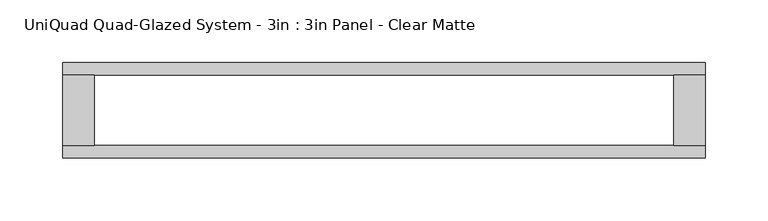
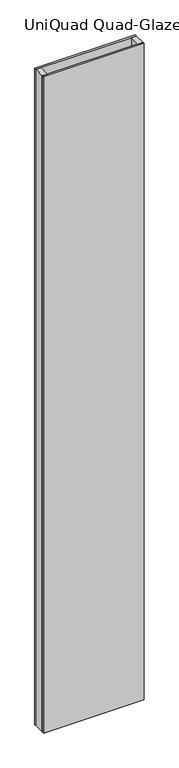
"""IFC4 building model written with IfcOpenShell, lengths in millimetres: plate geometry, UniQuad Quad-Glazed System - 3in : 3in Panel - Clear Matte."""

import ifcopenshell
import ifcopenshell.guid

model = None  # the IFC model being written
_history = None  # IfcOwnerHistory: only IFC2X3 demands one
_inside = {}  # id of a spatial element -> (the spatial element, [elements in it])
_under = {}  # id of a project, library or spatial element -> (it, [spatial elements below it])
_declared = {}  # id of a project -> (the project, [libraries it declares])
_typed = {}  # id of a type object -> (the type object, [elements of that type])
_made_of = {}  # id of a material, layer set ... -> (it, [elements and type objects made of it])


def new_model(schema):
    """Start an empty IFC model of exactly this schema.

    Asked for "IFC4X3", IfcOpenShell would pick the latest addendum, in which some entities
    have other attributes; the version numbers below select the first issue.
    IFC2X3 requires an IfcOwnerHistory on every rooted entity: one is made here for all.
    """
    global model, _history
    if schema == "IFC4X3":
        model = ifcopenshell.file(schema_version=(4, 3, 0, 0))
    else:
        model = ifcopenshell.file(schema=schema)
    _inside.clear()
    _under.clear()
    _declared.clear()
    _typed.clear()
    _made_of.clear()
    _history = None
    if model.schema == "IFC2X3":
        org = make("IfcOrganization", Name="unknown")
        user = make(
            "IfcPersonAndOrganization",
            ThePerson=make("IfcPerson", FamilyName="unknown"),
            TheOrganization=org,
        )
        app = make(
            "IfcApplication",
            ApplicationDeveloper=org,
            Version="unknown",
            ApplicationFullName="unknown",
            ApplicationIdentifier="unknown",
        )
        _history = make(
            "IfcOwnerHistory",
            OwningUser=user,
            OwningApplication=app,
            ChangeAction="ADDED",
            CreationDate=0,
        )
    return model


def make(cls, **values):
    """One entity of the class cls with the attributes given. An attribute that is None is left unset."""
    return model.create_entity(
        cls, **{name: value for name, value in values.items() if value is not None}
    )


def rooted(cls, **values):
    """An entity with a GlobalId (a new one), such as an element, a storey or a relation."""
    return make(cls, GlobalId=ifcopenshell.guid.new(), OwnerHistory=_history, **values)


def si_unit(unit_type, name, prefix=None):
    """IfcSIUnit, for example si_unit("LENGTHUNIT", "METRE", prefix="MILLI")."""
    return make("IfcSIUnit", UnitType=unit_type, Prefix=prefix, Name=name)


def assignment(units):
    """IfcUnitAssignment: the units of a project."""
    return None if units is None else make("IfcUnitAssignment", Units=units)


def point(xyz):
    """IfcCartesianPoint."""
    return None if xyz is None else make("IfcCartesianPoint", Coordinates=xyz)


def direction(xyz):
    """IfcDirection."""
    return None if xyz is None else make("IfcDirection", DirectionRatios=xyz)


def frame(location, z_axis=None, x_axis=None):
    """IfcAxis2Placement3D, a coordinate frame: its origin and axes. An axis left out is left unset."""
    return make(
        "IfcAxis2Placement3D",
        Location=point(location),
        Axis=direction(z_axis),
        RefDirection=direction(x_axis),
    )


def origin():
    """The frame at (0, 0, 0) with its axes left unset."""
    return frame((0.0, 0.0, 0.0))


def origin_with_axes():
    """The frame at (0, 0, 0) with the z axis (0, 0, 1) and the x axis (1, 0, 0) written out."""
    return frame((0.0, 0.0, 0.0), z_axis=(0.0, 0.0, 1.0), x_axis=(1.0, 0.0, 0.0))


def place(relative_to, where):
    """IfcLocalPlacement: puts the frame where relative to a parent placement (None: the world)."""
    return make(
        "IfcLocalPlacement", PlacementRelTo=relative_to, RelativePlacement=where
    )


def context(
    kind, dimensions, precision=None, world=None, true_north=None, identifier=None
):
    """IfcGeometricRepresentationContext, for example the 3D "Model" context."""
    return make(
        "IfcGeometricRepresentationContext",
        ContextIdentifier=identifier,
        ContextType=kind,
        CoordinateSpaceDimension=dimensions,
        Precision=precision,
        WorldCoordinateSystem=world,
        TrueNorth=true_north,
    )


def project(units=None, contexts=None):
    """IfcProject with its units and contexts."""
    return rooted(
        "IfcProject",
        Name="project",
        RepresentationContexts=contexts,
        UnitsInContext=assignment(units),
    )


def spatial(cls, under=None, at=None, **own):
    """A site, building, storey or space (cls), placed at a placement, below another one or the project."""
    s = rooted(cls, ObjectPlacement=at, **own)
    if under is not None:
        _under.setdefault(under.id(), (under, []))[1].append(s)
    return s


def polyline(points):
    """IfcPolyline through the points."""
    return make("IfcPolyline", Points=[point(p) for p in points])


def outline(outer, holes=None, kind="AREA"):
    """IfcArbitraryClosedProfileDef: a profile drawn as a closed curve; with holes, ...WithVoids."""
    if holes is None:
        return make("IfcArbitraryClosedProfileDef", ProfileType=kind, OuterCurve=outer)
    return make(
        "IfcArbitraryProfileDefWithVoids",
        ProfileType=kind,
        OuterCurve=outer,
        InnerCurves=holes,
    )


def extrude(swept, where, along, depth):
    """IfcExtrudedAreaSolid: the profile swept, set in the frame where, extruded along a direction by depth."""
    return make(
        "IfcExtrudedAreaSolid",
        SweptArea=swept,
        Position=where,
        ExtrudedDirection=direction(along),
        Depth=depth,
    )


def shape(context_of_items, identifier, shape_type, items):
    """IfcShapeRepresentation: the items that make up one representation, for example the "Body"."""
    return make(
        "IfcShapeRepresentation",
        ContextOfItems=context_of_items,
        RepresentationIdentifier=identifier,
        RepresentationType=shape_type,
        Items=items,
    )


def source(mapping_origin, context_of_items, identifier, shape_type, items):
    """IfcRepresentationMap: a shape defined once, which mapped items show again and again."""
    return make(
        "IfcRepresentationMap",
        MappingOrigin=mapping_origin,
        MappedRepresentation=shape(context_of_items, identifier, shape_type, items),
    )


def transform(
    local_origin,
    x_axis=None,
    y_axis=None,
    z_axis=None,
    scale=None,
    scale2=None,
    scale3=None,
    uniform=True,
):
    """IfcCartesianTransformationOperator3D, or its non-uniform kind. x_axis, y_axis, z_axis: its Axis1, 2, 3."""
    if uniform:
        return make(
            "IfcCartesianTransformationOperator3D",
            Axis1=direction(x_axis),
            Axis2=direction(y_axis),
            LocalOrigin=point(local_origin),
            Scale=scale,
            Axis3=direction(z_axis),
        )
    return make(
        "IfcCartesianTransformationOperator3DnonUniform",
        Axis1=direction(x_axis),
        Axis2=direction(y_axis),
        LocalOrigin=point(local_origin),
        Scale=scale,
        Axis3=direction(z_axis),
        Scale2=scale2,
        Scale3=scale3,
    )


def mapped(mapping_source, mapping_target):
    """IfcMappedItem: shows the shape of a source again, moved by a transform."""
    return make(
        "IfcMappedItem", MappingSource=mapping_source, MappingTarget=mapping_target
    )


def made_of(thing, what):
    """Note that an element or type object is made of a material, layer set ...; save() writes the relation."""
    if what is not None:
        _made_of.setdefault(what.id(), (what, []))[1].append(thing)
    return thing


def element(
    cls,
    number,
    at=None,
    inside=None,
    cuts=None,
    type_object=None,
    material=None,
    context=None,
    identifier="Body",
    shape_type=None,
    held_by="IfcProductDefinitionShape",
    body=None,
    shapes=None,
    **own,
):
    """One element of the class cls, such as IfcWall. Its Tag is "e" and its number.

    at: its placement. inside: the storey or other place that contains it. cuts: it is an
    opening in that element (IfcRelVoidsElement). A single representation is given by context,
    identifier, shape_type and body (its items); several are given by shapes. held_by: the class
    of the entity that holds the representations. save() writes the other relations.
    """
    e = rooted(cls, Tag="e%d" % number, ObjectPlacement=at, **own)
    if body is not None:
        shapes = [shape(context, identifier, shape_type, body)]
    if shapes is not None:
        e.Representation = make(held_by, Representations=shapes)
    if inside is not None:
        _inside.setdefault(inside.id(), (inside, []))[1].append(e)
    if cuts is not None:
        rooted(
            "IfcRelVoidsElement", RelatingBuildingElement=cuts, RelatedOpeningElement=e
        )
    if type_object is not None:
        _typed.setdefault(type_object.id(), (type_object, []))[1].append(e)
    return made_of(e, material)


def aggregate(whole, parts):
    """IfcRelAggregates: a whole, such as a stair, and the parts it consists of."""
    return rooted("IfcRelAggregates", RelatingObject=whole, RelatedObjects=parts)


def save(model, path):
    """Write the relations noted so far, then the file.

    IfcRelAggregates (storeys below a building ...), IfcRelContainedInSpatialStructure (elements
    in a storey), IfcRelDefinesByType, IfcRelAssociatesMaterial and IfcRelDeclares: one each for
    every whole, place, type object, material and project.
    """
    for whole, parts in _under.values():
        aggregate(whole, parts)
    for where, things in _inside.values():
        rooted(
            "IfcRelContainedInSpatialStructure",
            RelatedElements=things,
            RelatingStructure=where,
        )
    for kind, things in _typed.values():
        rooted("IfcRelDefinesByType", RelatedObjects=things, RelatingType=kind)
    for what, things in _made_of.values():
        rooted("IfcRelAssociatesMaterial", RelatedObjects=things, RelatingMaterial=what)
    for by, libraries in _declared.values():
        rooted("IfcRelDeclares", RelatingContext=by, RelatedDefinitions=libraries)
    model.write(path)


def uniquad_quad_glazed_system_3in_3in_panel_clear_matte_50605331(model_context):
    return source(origin(), model_context, "Body", "SweptSolid", [
        extrude(outline(polyline([(256.5796875, 28.0924), (256.5796875, -28.0924), (231.1796875, -28.0924), (231.1796875, 28.0924), (256.5796875, 28.0924)])), origin_with_axes(), (0.0, 0.0, 1.0), 3530.6),
        extrude(outline(polyline([(-256.5796875, 28.0924), (-231.1796875, 28.0924), (-231.1796875, -28.0924), (-256.5796875, -28.0924), (-256.5796875, 28.0924)])), origin_with_axes(), (0.0, 0.0, 1.0), 3530.6),
        extrude(outline(polyline([(256.5796875, -28.0924), (256.5796875, -38.1), (-256.5796875, -38.1), (-256.5796875, -28.0924), (256.5796875, -28.0924)])), origin_with_axes(), (0.0, 0.0, 1.0), 3530.6),
        extrude(outline(polyline([(256.5796875, 38.1), (256.5796875, 28.0924), (-256.5796875, 28.0924), (-256.5796875, 38.1), (256.5796875, 38.1)])), origin_with_axes(), (0.0, 0.0, 1.0), 3530.6),
    ])


if __name__ == "__main__":
    model = new_model("IFC4")
    model_context = context("Model", 3, world=origin())
    ifc_project = project(units=[si_unit("LENGTHUNIT", "METRE", prefix="MILLI")], contexts=[model_context])
    site = spatial("IfcSite", under=ifc_project)
    building = spatial("IfcBuilding", under=site)
    placement = place(None, origin())
    uniquad_quad_glazed_system_3in_3in_panel_clear_matte_shape = uniquad_quad_glazed_system_3in_3in_panel_clear_matte_50605331(model_context)
    element("IfcPlate", 1, ObjectType="UniQuad Quad-Glazed System - 3in : 3in Panel - Clear Matte", at=placement, inside=building, context=model_context, shape_type="MappedRepresentation", body=[
        mapped(uniquad_quad_glazed_system_3in_3in_panel_clear_matte_shape, transform((0.0, 0.0, 0.0), x_axis=(1.0, 0.0, 0.0), y_axis=(0.0, 1.0, 0.0), z_axis=(0.0, 0.0, 1.0))),
    ])
    save(model, "model.ifc")
